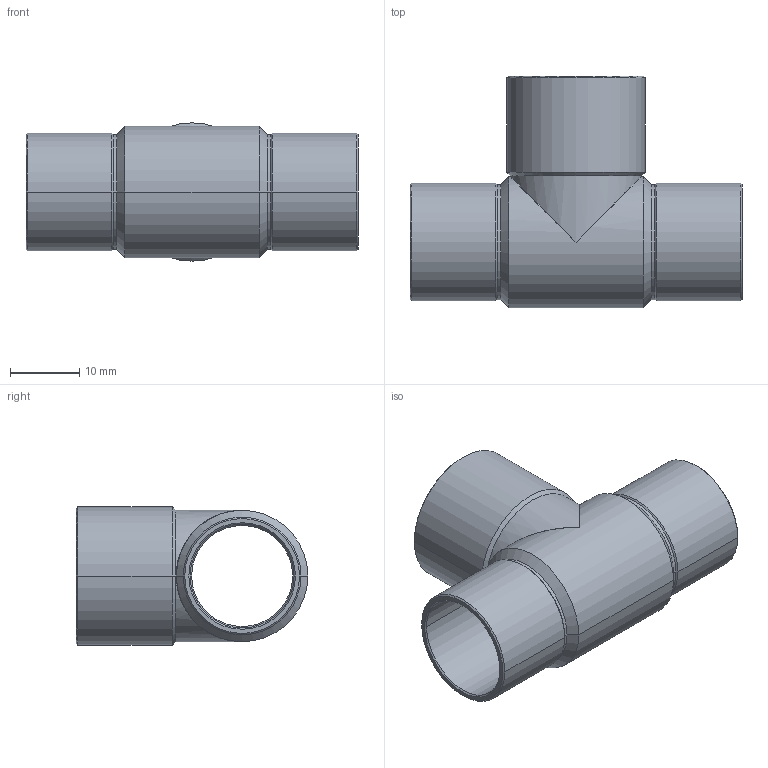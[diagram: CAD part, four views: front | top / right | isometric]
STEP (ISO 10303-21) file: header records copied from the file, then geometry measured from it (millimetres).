
FILE_DESCRIPTION((''),'2;1');
FILE_NAME('P:\Bouwmaten\z-maattekeningen 3D\5000\5130\5130151815.stp','2005-10-26T11:52:55',('Kris'),(''),'Autodesk Inventor 8','Autodesk Inventor 8','');
FILE_SCHEMA(('AUTOMOTIVE_DESIGN { 1 0 10303 214 1 1 1 1 }'));
Length unit declared in the file: millimetre
Products named in the file (1): 5130151815
Bounding box: 48 x 33.5 x 20 mm (x, y, z)
Volume: 3335.2 mm3; surface area: 6836 mm2
Topology: 1 solids, 1 shells, 71 faces, 160 edges, 82 vertices
Faces by surface type: cylinder 32, cone 32, bspline 4, plane 3
Entity records: 2329 total; most frequent: CARTESIAN_POINT 734, DIRECTION 372, ORIENTED_EDGE 304, AXIS2_PLACEMENT_3D 156, EDGE_CURVE 152, VERTEX_POINT 82, EDGE_LOOP 74, FACE_OUTER_BOUND 71
